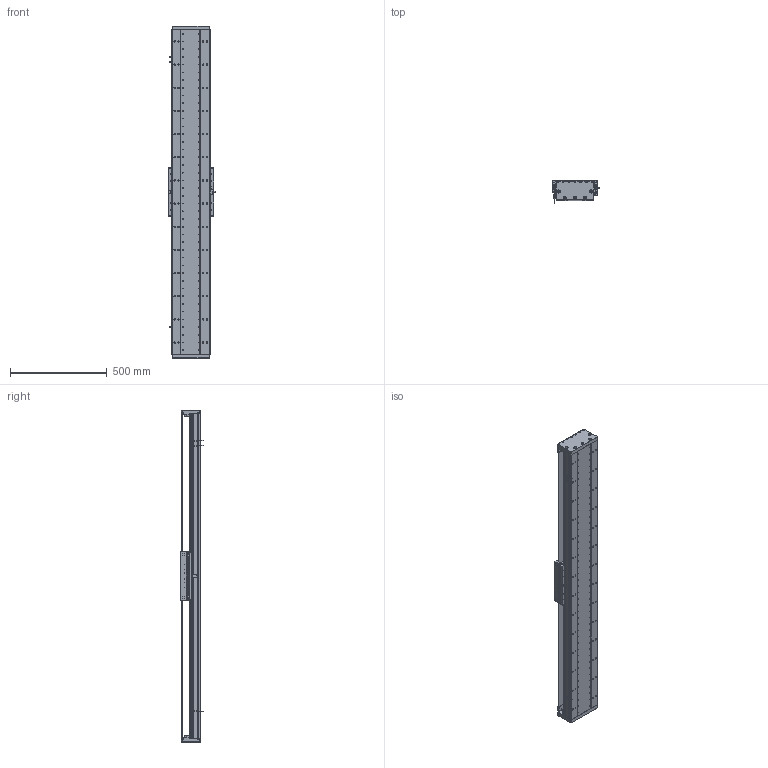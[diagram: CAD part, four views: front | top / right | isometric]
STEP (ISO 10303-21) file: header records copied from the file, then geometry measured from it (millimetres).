
FILE_DESCRIPTION (( 'STEP AP203' ), '1' );
FILE_NAME ('DA-C195-C3-T1380-C010-0.2 眻盄萇儂.STEP', '2025-08-15T01:38:44', ( '' ), ( '' ), 'SwSTEP 2.0', 'SolidWorks 2019', '' );
FILE_SCHEMA (( 'CONFIG_CONTROL_DESIGN' ));
Length unit declared in the file: millimetre
Products named in the file (15): DA165-GYP-00 光电感应片(默认); 葩璃 DA95-GT-T-00; IU-CU195-L-00 菁釱(L1680); IU-CU195-L 菁釱絳寢; PM-T45ㄗ侂狟ㄘ; DA95-HXJ-00 遣喳砎蝶; MS200 棠掑喜S315-T240; DA195詩湍菜輸; DA195詩湍嶺輸; DA-C195-C3-T1380-C010-0.2 眻盄萇儂; LMT黍杅芛; DA195詩湍裔啣; CU195-C3賑輸-俋楷; DA-C195-GD-DB-H-00 傷啣; DA195詩湍郪璃
Assembly tree (29 placements, depth 3):
  DA-C195-C3-T1380-C010-0.2 眻盄萇儂
    DA195詩湍郪璃
      DA195詩湍菜輸  x2
      DA195詩湍裔啣
      DA195詩湍嶺輸  x2
      DA95-HXJ-00 遣喳砎蝶  x8
      DA-C195-GD-DB-H-00 傷啣  x2
    IU-CU195-L 菁釱絳寢
      IU-CU195-L-00 菁釱(L1680)
      葩璃 DA95-GT-T-00  x4
    LMT黍杅芛
    MS200 棠掑喜S315-T240
    PM-T45ㄗ侂狟ㄘ  x3
    DA165-GYP-00 光电感应片(默认)
    CU195-C3賑輸-俋楷
Bounding box: 248 x 115.45 x 1720 mm (x, y, z)
Volume: 10901600.1 mm3; surface area: 3129973.5 mm2
Topology: 86 solids, 118 shells, 3944 faces, 10695 edges, 6689 vertices
Faces by surface type: cylinder 1994, plane 1348, cone 514, torus 52, sphere 36
Entity records: 119285 total; most frequent: CARTESIAN_POINT 29708, ORIENTED_EDGE 18306, DIRECTION 18302, EDGE_CURVE 9153, AXIS2_PLACEMENT_3D 6853, VERTEX_POINT 5891, LINE 4596, VECTOR 4596
